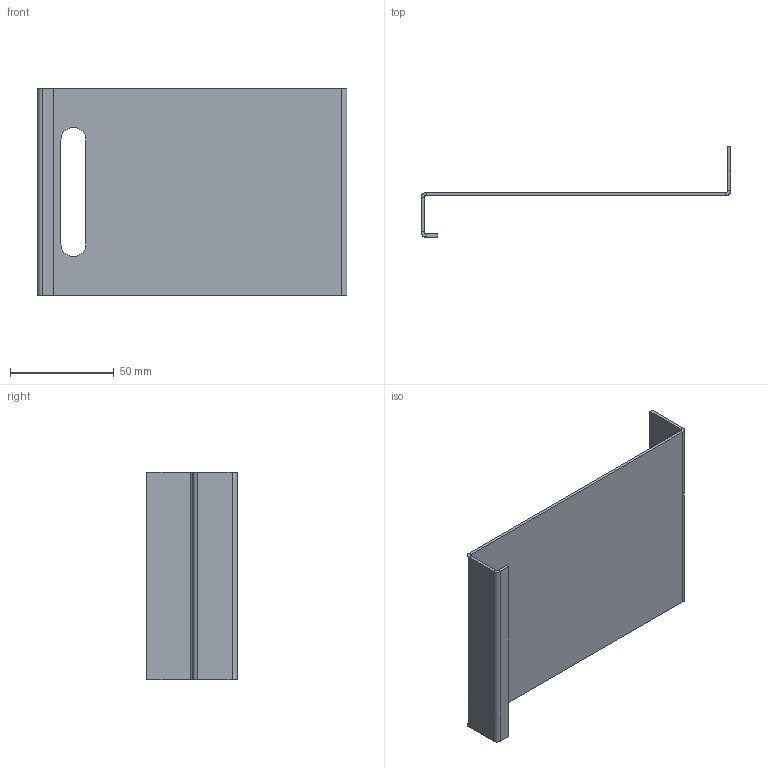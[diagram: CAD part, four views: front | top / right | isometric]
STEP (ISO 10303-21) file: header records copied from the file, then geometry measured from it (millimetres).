
FILE_DESCRIPTION (( 'STEP AP203' ), '1' );
FILE_NAME ('084.106.127.STEP', '2013-01-23T12:54:57', ( 'Alusic' ), ( 'Alusic' ), 'SwSTEP 2.0', 'SolidWorks 2011', '' );
FILE_SCHEMA (( 'CONFIG_CONTROL_DESIGN' ));
Length unit declared in the file: millimetre
Products named in the file (1): 084.106.127
Bounding box: 149 x 43.5 x 100 mm (x, y, z)
Volume: 28217.4 mm3; surface area: 38715.4 mm2
Topology: 1 solids, 1 shells, 35 faces, 75 edges, 42 vertices
Faces by surface type: plane 26, cylinder 9
Entity records: 996 total; most frequent: DIRECTION 165, CARTESIAN_POINT 153, ORIENTED_EDGE 150, EDGE_CURVE 75, VECTOR 57, LINE 57, AXIS2_PLACEMENT_3D 54, VERTEX_POINT 42
